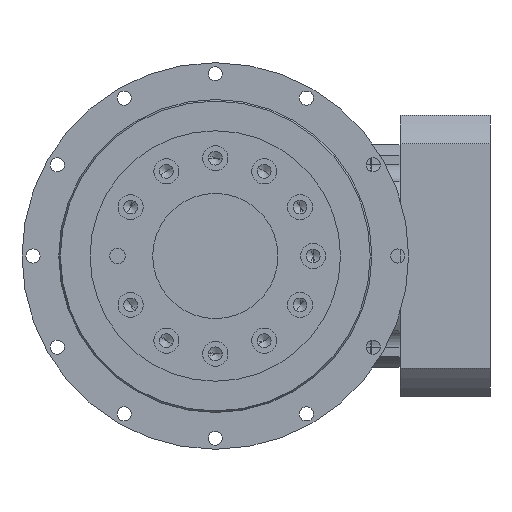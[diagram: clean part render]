
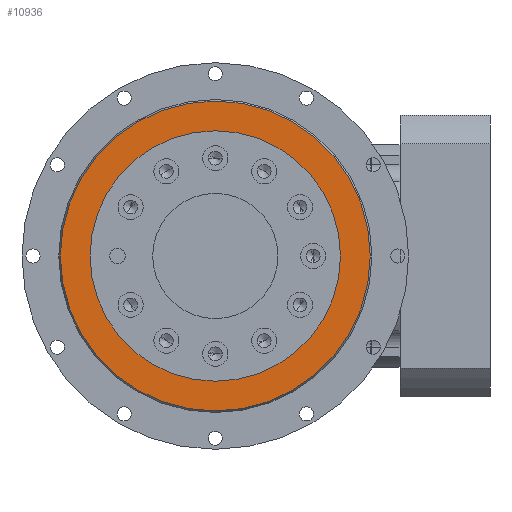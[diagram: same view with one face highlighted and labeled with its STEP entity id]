
A CAD part, left-side view. The second image highlights one B-rep face of the part: STEP entity #10936.
In plain terms, the highlighted planar face has unit normal (-1, 0, 0).
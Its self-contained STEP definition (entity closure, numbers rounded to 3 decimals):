
#148 = AXIS2_PLACEMENT_3D ( 'NONE', #8339, #584, #9623 ) ;
#360 = DIRECTION ( 'NONE',  ( -1., 0., 0. ) ) ;
#393 = EDGE_CURVE ( 'NONE', #8929, #15253, #14858, .T. ) ;
#584 = DIRECTION ( 'NONE',  ( -1., 0., 0. ) ) ;
#695 = DIRECTION ( 'NONE',  ( 1., 0., 0. ) ) ;
#824 = FACE_BOUND ( 'NONE', #5297, .T. ) ;
#2458 = ORIENTED_EDGE ( 'NONE', *, *, #6142, .F. ) ;
#3003 = ORIENTED_EDGE ( 'NONE', *, *, #8620, .F. ) ;
#3610 = DIRECTION ( 'NONE',  ( 1., 0., 0. ) ) ;
#3822 = EDGE_LOOP ( 'NONE', ( #5021, #2458 ) ) ;
#4386 = CARTESIAN_POINT ( 'NONE',  ( -105., 0., -99. ) ) ;
#5021 = ORIENTED_EDGE ( 'NONE', *, *, #393, .F. ) ;
#5297 = EDGE_LOOP ( 'NONE', ( #3003, #9279 ) ) ;
#5520 = CARTESIAN_POINT ( 'NONE',  ( -105., 99., 0. ) ) ;
#5813 = CARTESIAN_POINT ( 'NONE',  ( -105., 0., 0. ) ) ;
#6142 = EDGE_CURVE ( 'NONE', #15253, #8929, #14644, .T. ) ;
#7101 = DIRECTION ( 'NONE',  ( 0., 0., 1. ) ) ;
#7464 = VERTEX_POINT ( 'NONE', #10266 ) ;
#8099 = PLANE ( 'NONE',  #9086 ) ;
#8339 = CARTESIAN_POINT ( 'NONE',  ( -105., 0., 0. ) ) ;
#8445 = CARTESIAN_POINT ( 'NONE',  ( -105., 0., 0. ) ) ;
#8620 = EDGE_CURVE ( 'NONE', #16654, #7464, #14202, .T. ) ;
#8929 = VERTEX_POINT ( 'NONE', #4386 ) ;
#9086 = AXIS2_PLACEMENT_3D ( 'NONE', #5520, #360, #9404 ) ;
#9226 = CARTESIAN_POINT ( 'NONE',  ( -105., 0., -80. ) ) ;
#9279 = ORIENTED_EDGE ( 'NONE', *, *, #13368, .F. ) ;
#9404 = DIRECTION ( 'NONE',  ( 0., 0., 1. ) ) ;
#9623 = DIRECTION ( 'NONE',  ( 0., 0., 1. ) ) ;
#9720 = DIRECTION ( 'NONE',  ( 0., 0., -1. ) ) ;
#10266 = CARTESIAN_POINT ( 'NONE',  ( -105., 0., 80. ) ) ;
#10497 = AXIS2_PLACEMENT_3D ( 'NONE', #8445, #695, #9720 ) ;
#10936 = ADVANCED_FACE ( 'NONE', ( #13735, #824 ), #8099, .T. ) ;
#11124 = AXIS2_PLACEMENT_3D ( 'NONE', #11329, #3610, #12623 ) ;
#11329 = CARTESIAN_POINT ( 'NONE',  ( -105., 0., 0. ) ) ;
#12270 = AXIS2_PLACEMENT_3D ( 'NONE', #5813, #14796, #7101 ) ;
#12623 = DIRECTION ( 'NONE',  ( 0., 0., -1. ) ) ;
#13368 = EDGE_CURVE ( 'NONE', #7464, #16654, #14944, .T. ) ;
#13735 = FACE_OUTER_BOUND ( 'NONE', #3822, .T. ) ;
#14202 = CIRCLE ( 'NONE', #12270, 80. ) ;
#14644 = CIRCLE ( 'NONE', #11124, 99. ) ;
#14764 = CARTESIAN_POINT ( 'NONE',  ( -105., 0., 99. ) ) ;
#14796 = DIRECTION ( 'NONE',  ( -1., 0., 0. ) ) ;
#14858 = CIRCLE ( 'NONE', #10497, 99. ) ;
#14944 = CIRCLE ( 'NONE', #148, 80. ) ;
#15253 = VERTEX_POINT ( 'NONE', #14764 ) ;
#16654 = VERTEX_POINT ( 'NONE', #9226 ) ;
